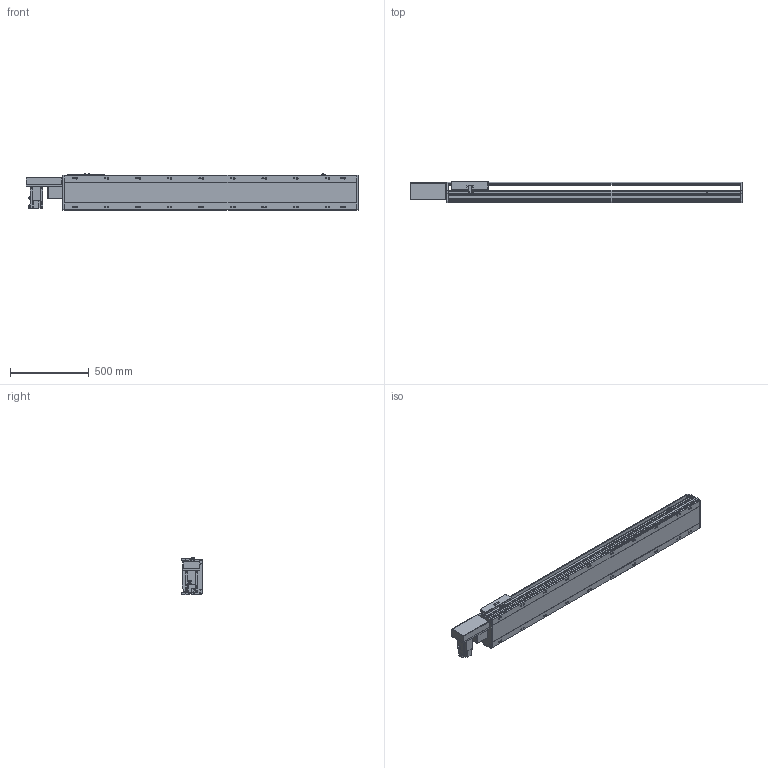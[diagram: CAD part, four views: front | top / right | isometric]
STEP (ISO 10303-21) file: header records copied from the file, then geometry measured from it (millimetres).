
FILE_DESCRIPTION(/* description */ ('STEP AP214'),/* implementation_level */ '2;1');
FILE_NAME(/* name */ 'PBS220-P40-S1500-R-T75-C1-N(0)',/* time_stamp */ '2022-06-11T10:01:31+02:00',/* author */ ('License CC BY-ND 4.0'),/* organization */ ('CADENAS'),/* preprocessor_version */ 'ST-DEVELOPER v18.102',/* originating_system */ 'PARTsolutions',/* authorisation */ ' ');
FILE_SCHEMA (('AUTOMOTIVE_DESIGN {1 0 10303 214 3 1 1}'));
Length unit declared in the file: millimetre
Products named in the file (7): PBS220-P40-S1500-R-T75-C1-N(0); PBS220_sensor; PBS220_plant; PBS220_sliser; T75-p1; PBS220T-R_motors; PBS220-S1500()_body
Assembly tree (8 placements, depth 2):
  PBS220-P40-S1500-R-T75-C1-N(0)
    PBS220_sensor  x3
    PBS220_plant
    PBS220_sliser
    T75-p1
    PBS220T-R_motors
    PBS220-S1500()_body
Bounding box: 2106 x 134 x 238.5 mm (x, y, z)
Volume: 28189090.1 mm3; surface area: 2673965 mm2
Topology: 8 solids, 8 shells, 938 faces, 2452 edges, 1594 vertices
Faces by surface type: plane 606, cylinder 288, cone 44
Full cylindrical faces by diameter (mm): 2.013 x4, 4.5 x14, 4.917 x4, 6 x7, 6.647 x8, 8 x10, 8.376 x20, 8.5 x20, 10 x6, 14 x20, 38 x2, 40 x1, 70 x1
Entity records: 26253 total; most frequent: CARTESIAN_POINT 4624, DIRECTION 4563, ORIENTED_EDGE 4178, EDGE_CURVE 2089, AXIS2_PLACEMENT_3D 1607, VERTEX_POINT 1448, LINE 1349, VECTOR 1349
